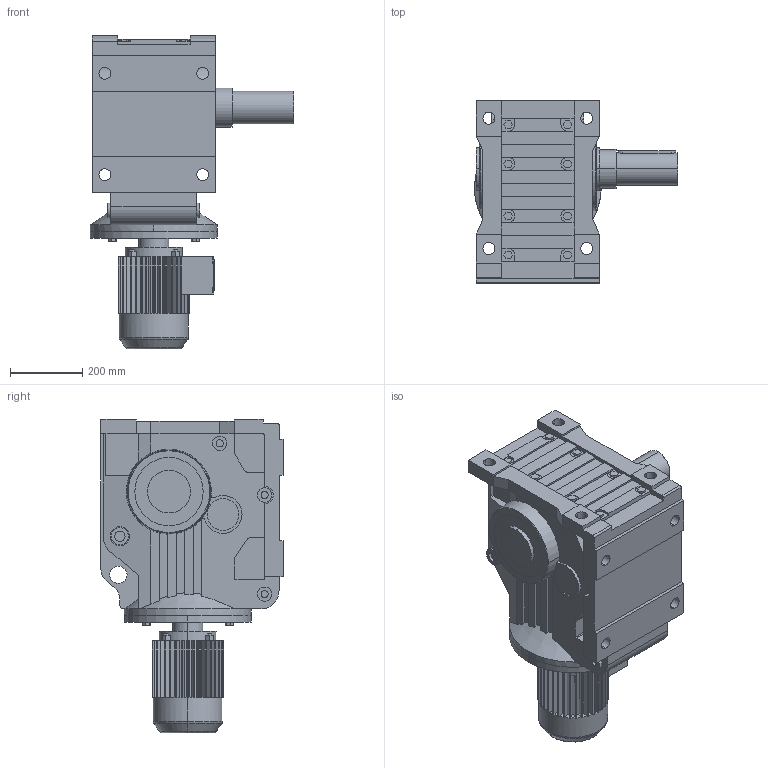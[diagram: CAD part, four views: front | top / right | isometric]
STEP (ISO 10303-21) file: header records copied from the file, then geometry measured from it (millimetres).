
FILE_DESCRIPTION(('Open CASCADE Model'),'2;1');
FILE_NAME('Open CASCADE Shape Model','2021-07-20T12:27:14',('Author'),( 'Open CASCADE'),'Open CASCADE STEP processor 6.3','Open CASCADE 6.3' ,'Unknown');
FILE_SCHEMA(('AUTOMOTIVE_DESIGN_CC2 { 1 2 10303 214 -1 1 5 4 }'));
Length unit declared in the file: millimetre
Products named in the file (4): 1_K107DV100L-A; K37‵157_107.step; 萇儂_350-DV100L-325-410-197-166.step; す瑩妗陑粣K_107.step
Assembly tree (3 placements, depth 2):
  1_K107DV100L-A
    K37‵157_107.step
    萇儂_350-DV100L-325-410-197-166.step
    す瑩妗陑粣K_107.step
Bounding box: 561 x 503 x 866 mm (x, y, z)
Volume: 73838000.1 mm3; surface area: 2362873.1 mm2
Topology: 3 solids, 3 shells, 842 faces, 2218 edges, 1439 vertices
Faces by surface type: plane 587, cylinder 231, cone 16, torus 8
Entity records: 58026 total; most frequent: CARTESIAN_POINT 15857, DIRECTION 7274, ORIENTED_EDGE 4432, PCURVE 4432, DEFINITIONAL_REPRESENTATION 4432, LINE 3960, VECTOR 3960, EDGE_CURVE 2216
